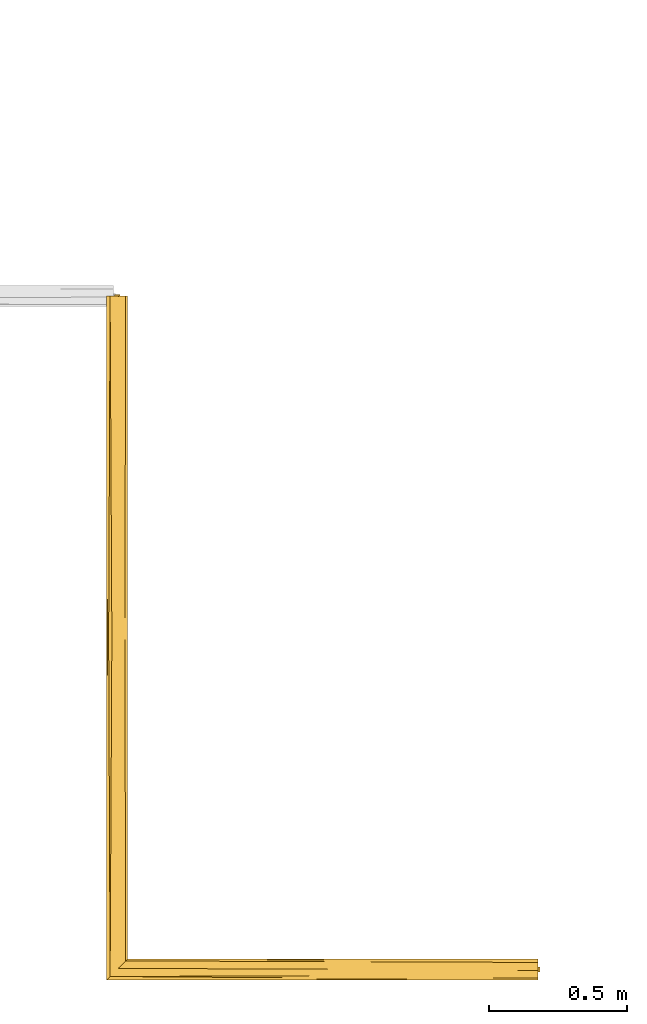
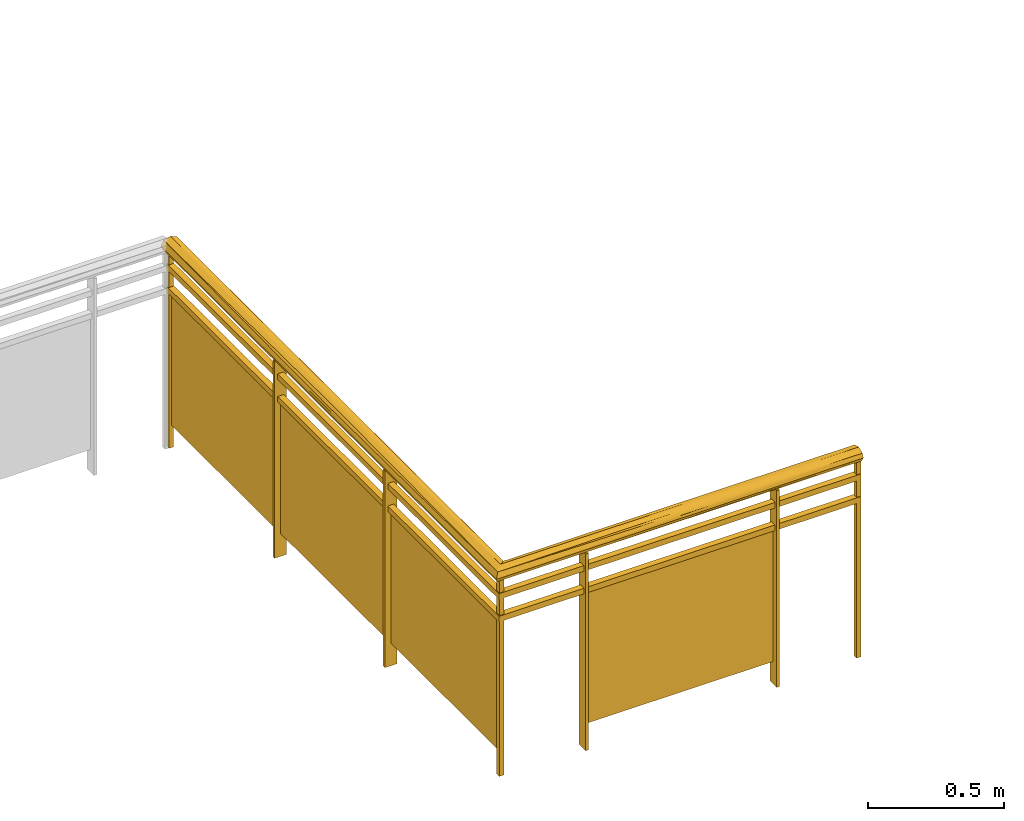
# One storey, part 2 of 3: 1 railing.
"""IFC2X3 building model written with IfcOpenShell, lengths in feet."""

from ifc_helpers import new_model, entity, si_unit, converted_unit, derived_unit, direction, frame, origin, place, context, subcontext, project, spatial, faceted_brep, material, material_list, element, save


model = new_model("IFC2X3")

# Units and contexts
model_context = context("Model", 3, precision=0.0001, world=origin(), true_north=direction((6.12303176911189e-17, 1.0)))
body_context = subcontext(model_context, "Body", "Model", "MODEL_VIEW")
ifc_project = project(units=[converted_unit("LENGTHUNIT", "FOOT", entity("IfcRatioMeasure", 0.3048), si_unit("LENGTHUNIT", "METRE"), dimensions=[1, 0, 0, 0, 0, 0, 0]), converted_unit("AREAUNIT", "SQUARE FOOT", entity("IfcRatioMeasure", 0.09290304), si_unit("AREAUNIT", "SQUARE_METRE"), dimensions=[2, 0, 0, 0, 0, 0, 0]), converted_unit("VOLUMEUNIT", "CUBIC FOOT", entity("IfcRatioMeasure", 0.028316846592), si_unit("VOLUMEUNIT", "CUBIC_METRE"), dimensions=[3, 0, 0, 0, 0, 0, 0]), converted_unit("PLANEANGLEUNIT", "DEGREE", entity("IfcRatioMeasure", 0.0174532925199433), si_unit("PLANEANGLEUNIT", "RADIAN"), dimensions=[0, 0, 0, 0, 0, 0, 0]), si_unit("MASSUNIT", "GRAM", prefix="KILO"), derived_unit("MASSDENSITYUNIT", [(si_unit("MASSUNIT", "GRAM", prefix="KILO"), 1), (si_unit("LENGTHUNIT", "METRE"), -3)]), si_unit("TIMEUNIT", "SECOND"), si_unit("FREQUENCYUNIT", "HERTZ"), si_unit("THERMODYNAMICTEMPERATUREUNIT", "DEGREE_CELSIUS"), derived_unit("THERMALTRANSMITTANCEUNIT", [(si_unit("MASSUNIT", "GRAM", prefix="KILO"), 1), (si_unit("THERMODYNAMICTEMPERATUREUNIT", "KELVIN"), -1), (si_unit("TIMEUNIT", "SECOND"), -3)]), derived_unit("VOLUMETRICFLOWRATEUNIT", [(si_unit("LENGTHUNIT", "METRE"), 3), (si_unit("TIMEUNIT", "SECOND"), -1)]), si_unit("ELECTRICCURRENTUNIT", "AMPERE"), si_unit("ELECTRICVOLTAGEUNIT", "VOLT"), si_unit("POWERUNIT", "WATT"), si_unit("FORCEUNIT", "NEWTON"), si_unit("ILLUMINANCEUNIT", "LUX"), si_unit("LUMINOUSFLUXUNIT", "LUMEN"), si_unit("LUMINOUSINTENSITYUNIT", "CANDELA"), derived_unit("USERDEFINED", [(si_unit("MASSUNIT", "GRAM", prefix="KILO"), -1), (si_unit("LENGTHUNIT", "METRE"), -2), (si_unit("TIMEUNIT", "SECOND"), 3), (si_unit("LUMINOUSFLUXUNIT", "LUMEN"), 1)]), derived_unit("LINEARVELOCITYUNIT", [(si_unit("LENGTHUNIT", "METRE"), 1), (si_unit("TIMEUNIT", "SECOND"), -1)]), si_unit("PRESSUREUNIT", "PASCAL"), derived_unit("USERDEFINED", [(si_unit("LENGTHUNIT", "METRE"), -2), (si_unit("MASSUNIT", "GRAM", prefix="KILO"), 1), (si_unit("TIMEUNIT", "SECOND"), -2)])], contexts=[model_context])

# Site, building, storey
site_placement = place(None, origin())
site = spatial("IfcSite", under=ifc_project, at=site_placement, Name="Default", CompositionType="ELEMENT")
building_placement = place(site_placement, origin())
building = spatial("IfcBuilding", under=site, at=building_placement, CompositionType="ELEMENT")
storey_placement = place(building_placement, frame((0.0, 0.0, 60.0)))
storey = spatial("IfcBuildingStorey", under=building, at=storey_placement, Name="L 11", CompositionType="ELEMENT", Elevation=60.0)

# Railing
ifc_material_1 = material(Name="Glass")
ifc_material_2 = material(Name="alum - color")
ifc_material_list = material_list([ifc_material_1, ifc_material_2])
railing_placement = place(storey_placement, frame((-51.4553966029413, -15.4672084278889, 0.0)))
element("IfcRailing", 1, at=railing_placement, inside=storey, material=ifc_material_list, Name="Railing:Glass Panel - Bottom Fill", ObjectType="Railing:Glass Panel - Bottom Fill", PredefinedType="NOTDEFINED", context=body_context, shape_type="Brep", body=[
    faceted_brep([(3.94273383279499, 0.0469004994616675, 2.90577041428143), (3.94273383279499, 0.213567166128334, 2.90577041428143), (3.94273383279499, 0.213567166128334, 0.0), (3.94273383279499, 0.0469004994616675, 0.0), (3.98440049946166, 0.0469004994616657, 2.90577041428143), (3.98440049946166, 0.0469004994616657, 0.0), (3.98440049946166, 0.213567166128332, 2.90577041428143), (3.98440049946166, 0.213567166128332, 0.0)], [[[0, 1, 2, 3]], [[4, 0, 3, 5]], [[6, 4, 5, 7]], [[1, 6, 7, 2]], [[1, 0, 4, 6]], [[3, 2, 7, 5]]]),
    faceted_brep([(1.29690049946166, 0.15167463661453, 0.333333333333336), (1.29690049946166, 0.15167463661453, 2.29166666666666), (3.96356716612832, 0.15167463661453, 2.29166666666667), (3.96356716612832, 0.15167463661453, 0.333333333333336), (1.29690049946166, 0.130841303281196, 0.333333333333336), (3.96356716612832, 0.130841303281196, 0.333333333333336), (3.96356716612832, 0.130841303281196, 2.29166666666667), (1.29690049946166, 0.130841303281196, 2.29166666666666)], [[[0, 1, 2, 3]], [[4, 5, 6, 7]], [[1, 0, 4, 7]], [[2, 1, 7, 6]], [[3, 2, 6, 5]], [[0, 3, 5, 4]]]),
    faceted_brep([(1.27606716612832, 0.0469004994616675, 2.90577041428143), (1.27606716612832, 0.213567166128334, 2.90577041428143), (1.27606716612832, 0.213567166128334, 0.0), (1.27606716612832, 0.0469004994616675, 0.0), (1.31773383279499, 0.0469004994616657, 2.90577041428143), (1.31773383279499, 0.0469004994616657, 0.0), (1.31773383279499, 0.213567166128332, 2.90577041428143), (1.31773383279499, 0.213567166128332, 0.0)], [[[0, 1, 2, 3]], [[4, 0, 3, 5]], [[6, 4, 5, 7]], [[1, 6, 7, 2]], [[1, 0, 4, 6]], [[3, 2, 7, 5]]]),
    faceted_brep([(0.15167463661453, 2.79690049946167, 0.333333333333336), (0.15167463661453, 2.79690049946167, 2.29166666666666), (0.15167463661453, 0.130233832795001, 2.29166666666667), (0.15167463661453, 0.130233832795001, 0.333333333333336), (0.130841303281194, 2.79690049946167, 0.333333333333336), (0.130841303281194, 0.130233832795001, 0.333333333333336), (0.130841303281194, 0.130233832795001, 2.29166666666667), (0.130841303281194, 2.79690049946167, 2.29166666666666)], [[[0, 1, 2, 3]], [[4, 5, 6, 7]], [[1, 0, 4, 7]], [[2, 1, 7, 6]], [[3, 2, 6, 5]], [[0, 3, 5, 4]]]),
    faceted_brep([(0.0469004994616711, 2.817733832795, 2.90577041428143), (0.213567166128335, 2.817733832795, 2.90577041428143), (0.213567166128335, 2.817733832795, 0.0), (0.0469004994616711, 2.817733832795, 0.0), (0.046900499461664, 2.77606716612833, 2.90577041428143), (0.046900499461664, 2.77606716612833, 0.0), (0.213567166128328, 2.77606716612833, 2.90577041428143), (0.213567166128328, 2.77606716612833, 0.0)], [[[0, 1, 2, 3]], [[4, 0, 3, 5]], [[6, 4, 5, 7]], [[1, 6, 7, 2]], [[1, 0, 4, 6]], [[3, 2, 7, 5]]]),
    faceted_brep([(0.15167463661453, 5.46356716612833, 0.333333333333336), (0.15167463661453, 5.46356716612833, 2.29166666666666), (0.15167463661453, 2.79690049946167, 2.29166666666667), (0.15167463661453, 2.79690049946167, 0.333333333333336), (0.130841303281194, 5.46356716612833, 0.333333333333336), (0.130841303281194, 2.79690049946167, 0.333333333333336), (0.130841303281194, 2.79690049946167, 2.29166666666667), (0.130841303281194, 5.46356716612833, 2.29166666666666)], [[[0, 1, 2, 3]], [[4, 5, 6, 7]], [[1, 0, 4, 7]], [[2, 1, 7, 6]], [[3, 2, 6, 5]], [[0, 3, 5, 4]]]),
    faceted_brep([(0.0469004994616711, 5.48440049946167, 2.90577041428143), (0.213567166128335, 5.48440049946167, 2.90577041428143), (0.213567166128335, 5.48440049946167, 0.0), (0.0469004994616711, 5.48440049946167, 0.0), (0.046900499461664, 5.442733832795, 2.90577041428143), (0.046900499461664, 5.442733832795, 0.0), (0.213567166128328, 5.442733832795, 2.90577041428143), (0.213567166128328, 5.442733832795, 0.0)], [[[0, 1, 2, 3]], [[4, 0, 3, 5]], [[6, 4, 5, 7]], [[1, 6, 7, 2]], [[1, 0, 4, 6]], [[3, 2, 7, 5]]]),
    faceted_brep([(0.15167463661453, 8.130233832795, 0.333333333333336), (0.15167463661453, 8.130233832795, 2.29166666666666), (0.15167463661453, 5.46356716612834, 2.29166666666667), (0.15167463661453, 5.46356716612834, 0.333333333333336), (0.130841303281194, 8.130233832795, 0.333333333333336), (0.130841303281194, 5.46356716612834, 0.333333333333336), (0.130841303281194, 5.46356716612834, 2.29166666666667), (0.130841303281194, 8.130233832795, 2.29166666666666)], [[[0, 1, 2, 3]], [[4, 5, 6, 7]], [[1, 0, 4, 7]], [[2, 1, 7, 6]], [[3, 2, 6, 5]], [[0, 3, 5, 4]]]),
    faceted_brep([(0.0989838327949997, 0.161483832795, 2.90577041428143), (0.161483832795, 0.161483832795, 2.90577041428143), (0.161483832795, 0.161483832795, 0.0), (0.0989838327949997, 0.161483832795, 0.0), (0.0989838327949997, 0.0989838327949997, 2.90577041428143), (0.0989838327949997, 0.0989838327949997, 0.0), (0.161483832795, 0.0989838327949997, 2.90577041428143), (0.161483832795, 0.0989838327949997, 0.0)], [[[0, 1, 2, 3]], [[4, 0, 3, 5]], [[6, 4, 5, 7]], [[1, 6, 7, 2]], [[1, 0, 4, 6]], [[3, 2, 7, 5]]]),
    faceted_brep([(5.08856716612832, 0.0989838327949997, 2.90577041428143), (5.08856716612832, 0.161483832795, 2.90577041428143), (5.08856716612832, 0.161483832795, 0.0), (5.08856716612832, 0.0989838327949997, 0.0), (5.15106716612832, 0.0989838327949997, 2.90577041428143), (5.15106716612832, 0.0989838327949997, 0.0), (5.15106716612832, 0.161483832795, 2.90577041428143), (5.15106716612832, 0.161483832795, 0.0)], [[[0, 1, 2, 3]], [[4, 0, 3, 5]], [[6, 4, 5, 7]], [[1, 6, 7, 2]], [[1, 0, 4, 6]], [[3, 2, 7, 5]]]),
    faceted_brep([(0.0989838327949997, 8.15106716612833, 2.90577041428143), (0.161483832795, 8.15106716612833, 2.90577041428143), (0.161483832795, 8.15106716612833, 0.0), (0.0989838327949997, 8.15106716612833, 0.0), (0.0989838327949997, 8.08856716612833, 2.90577041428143), (0.0989838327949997, 8.08856716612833, 0.0), (0.161483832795, 8.08856716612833, 2.90577041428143), (0.161483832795, 8.08856716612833, 0.0)], [[[0, 1, 2, 3]], [[4, 0, 3, 5]], [[6, 4, 5, 7]], [[1, 6, 7, 2]], [[1, 0, 4, 6]], [[3, 2, 7, 5]]]),
    faceted_brep([(0.0885671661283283, 8.130233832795, 2.70833333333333), (0.171900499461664, 8.130233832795, 2.70833333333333), (0.171900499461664, 8.130233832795, 2.625), (0.0885671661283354, 8.130233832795, 2.625), (0.0885671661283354, 0.0885671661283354, 2.70833333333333), (0.171900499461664, 0.171900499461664, 2.70833333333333), (0.171900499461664, 0.171900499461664, 2.625), (0.0885671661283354, 0.0885671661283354, 2.625), (5.13023383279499, 0.0885671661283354, 2.70833333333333), (5.13023383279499, 0.0885671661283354, 2.62499999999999), (5.13023383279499, 0.171900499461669, 2.625), (5.13023383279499, 0.171900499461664, 2.70833333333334)], [[[0, 1, 2, 3]], [[1, 0, 4, 5]], [[2, 1, 5, 6]], [[3, 2, 6, 7]], [[0, 3, 7, 4]], [[8, 9, 10, 11]], [[5, 4, 8, 11]], [[6, 5, 11, 10]], [[7, 6, 10, 9]], [[4, 7, 9, 8]]]),
    faceted_brep([(0.0885671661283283, 8.130233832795, 2.375), (0.171900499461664, 8.130233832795, 2.375), (0.171900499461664, 8.130233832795, 2.29166666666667), (0.0885671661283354, 8.130233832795, 2.29166666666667), (0.0885671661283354, 0.0885671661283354, 2.375), (0.171900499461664, 0.171900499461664, 2.375), (0.171900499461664, 0.171900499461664, 2.29166666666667), (0.0885671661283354, 0.0885671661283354, 2.29166666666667), (5.13023383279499, 0.0885671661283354, 2.375), (5.13023383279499, 0.0885671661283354, 2.29166666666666), (5.13023383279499, 0.171900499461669, 2.29166666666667), (5.13023383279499, 0.171900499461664, 2.37500000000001)], [[[0, 1, 2, 3]], [[1, 0, 4, 5]], [[2, 1, 5, 6]], [[3, 2, 6, 7]], [[0, 3, 7, 4]], [[8, 9, 10, 11]], [[5, 4, 8, 11]], [[6, 5, 11, 10]], [[7, 6, 10, 9]], [[4, 7, 9, 8]]]),
    faceted_brep([(0.117167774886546, 8.130233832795, 2.90676357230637), (0.0731372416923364, 8.130233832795, 2.92582935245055), (0.0291067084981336, 8.130233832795, 2.94489513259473), (0.0171702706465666, 8.130233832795, 2.97244756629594), (0.00523383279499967, 8.130233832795, 3.0), (0.0259131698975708, 8.130233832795, 3.03483491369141), (0.0465925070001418, 8.130233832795, 3.06966982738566), (0.094946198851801, 8.130233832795, 3.08145312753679), (0.143299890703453, 8.130233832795, 3.09323642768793), (0.187330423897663, 8.130233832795, 3.07417064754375), (0.231360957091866, 8.130233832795, 3.05510486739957), (0.243297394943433, 8.130233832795, 3.02755243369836), (0.255233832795, 8.130233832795, 3.0), (0.234554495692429, 8.130233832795, 2.9651650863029), (0.213875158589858, 8.130233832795, 2.93033017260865), (0.165521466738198, 8.130233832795, 2.91854687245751), (0.165521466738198, 0.165521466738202, 2.91854687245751), (0.117167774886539, 0.117167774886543, 2.90676357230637), (0.143299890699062, 4.14787766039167, 2.90676357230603), (0.0188580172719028, 4.07967027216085, 2.95743839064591), (0.0291067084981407, 0.0291067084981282, 2.94489513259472), (0.0171702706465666, 0.0171702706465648, 2.97244756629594), (0.0137391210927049, 0.0137391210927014, 2.98036756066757), (0.234554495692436, 0.234554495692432, 2.9651650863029), (0.213875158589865, 0.213875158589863, 2.93033017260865), (0.23130291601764, 4.17205446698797, 2.94483526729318), (0.00523383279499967, 0.00523383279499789, 3.0), (0.00523383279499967, 3.52237348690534, 3.0), (0.192733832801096, 4.17205450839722, 2.918810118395), (0.0085814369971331, 4.56614973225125, 2.97844882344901), (0.00523383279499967, 3.57772891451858, 3.0), (0.0731372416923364, 0.0731372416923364, 2.92582935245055), (0.0914039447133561, 4.10168553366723, 2.91088800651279), (0.246600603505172, 4.18239410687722, 2.96576371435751), (0.039745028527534, 4.0796702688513, 2.93532244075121), (0.255233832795, 4.61312962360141, 3.0), (0.255233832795, 4.55774796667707, 3.0), (0.255233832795, 0.255233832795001, 3.0), (0.0635502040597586, 4.29614994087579, 2.92070441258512), (0.241449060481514, 0.241449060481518, 2.97677917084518), (0.117167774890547, 4.13676685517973, 3.09323642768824), (0.243297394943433, 0.243297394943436, 3.02755243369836), (0.241575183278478, 4.18079739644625, 3.04261230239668), (0.231360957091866, 0.231360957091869, 3.05510486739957), (0.0259131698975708, 0.025913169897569, 3.0348349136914), (0.0291067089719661, 4.08841313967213, 3.0551048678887), (0.0134595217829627, 4.07807343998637, 3.03344663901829), (0.0465925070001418, 0.0465925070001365, 3.06966982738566), (0.0675305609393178, 4.08841318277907, 3.08110167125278), (0.168659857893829, 4.13676686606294, 3.08921041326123), (0.221524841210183, 4.18079739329, 3.06404030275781), (0.251826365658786, 3.78364768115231, 3.02174037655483), (0.0707693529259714, 0.0707693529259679, 3.07556147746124), (0.094946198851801, 0.0949461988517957, 3.08145312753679), (0.187330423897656, 0.187330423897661, 3.07417064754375), (0.197226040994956, 4.20738820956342, 3.07914914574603), (0.244356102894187, 0.244356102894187, 3.02510865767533), (0.143299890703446, 0.143299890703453, 3.09323642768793), (0.119123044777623, 0.119123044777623, 3.08734477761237), (5.13023383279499, 0.0259131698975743, 2.9651650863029), (5.13023383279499, 0.0465925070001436, 2.93033017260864), (5.13023383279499, 0.0949461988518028, 2.91854687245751), (5.13023383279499, 0.143299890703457, 2.90676357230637), (5.13023383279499, 0.187330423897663, 2.92582935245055), (5.13023383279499, 0.231360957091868, 2.94489513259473), (5.13023383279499, 0.243297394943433, 2.97244756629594), (5.13023383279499, 0.255233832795, 3.0), (5.13023383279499, 0.234554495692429, 3.03483491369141), (5.13023383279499, 0.213875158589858, 3.06966982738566), (5.13023383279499, 0.165521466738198, 3.0814531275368), (5.13023383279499, 0.117167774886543, 3.09323642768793), (5.13023383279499, 0.0731372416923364, 3.07417064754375), (5.13023383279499, 0.0291067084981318, 3.05510486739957), (5.13023383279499, 0.0171702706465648, 3.02755243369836), (5.13023383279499, 0.00523383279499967, 3.0), (2.90239529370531, 0.241609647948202, 2.95743839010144), (2.70037614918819, 0.222558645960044, 2.93679885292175), (2.90645167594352, 0.251872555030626, 2.97840545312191), (2.36299101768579, 0.255233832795, 3.0), (3.09254439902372, 0.255233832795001, 3.0), (2.34978165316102, 0.195707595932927, 2.92013930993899), (2.77247653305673, 0.00523383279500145, 3.0), (2.39034776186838, 0.0180983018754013, 2.95857566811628), (2.60535897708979, 0.130792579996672, 2.90625093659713), (2.9250958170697, 0.16433925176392, 2.90980701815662), (2.34287893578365, 0.0959444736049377, 2.90984625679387), (2.56660659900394, 0.0376121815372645, 2.93704363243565), (2.88561839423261, 0.0639929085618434, 2.92049596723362), (2.29292314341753, 0.00523383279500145, 3.0), (2.60050159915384, 0.0564588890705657, 3.07568038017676), (2.25480502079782, 0.0307681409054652, 3.05678038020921), (2.9081122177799, 0.197520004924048, 3.0790087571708), (2.71495766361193, 0.22380430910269, 3.06216213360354), (2.62419605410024, 0.0145921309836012, 3.03559140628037), (2.71450553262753, 0.132589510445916, 3.0937333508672), (2.82485670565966, 0.0979297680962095, 3.09056524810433), (2.40596040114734, 0.242343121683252, 3.04146426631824), (2.30840830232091, 0.165863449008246, 3.08986092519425)], [[[0, 1, 2, 3, 4, 5, 6, 7, 8, 9, 10, 11, 12, 13, 14, 15]], [[16, 17, 18]], [[19, 20, 21, 22]], [[23, 24, 25]], [[22, 26, 27]], [[25, 14, 13]], [[15, 14, 28]], [[24, 16, 28]], [[29, 27, 30, 4]], [[29, 3, 19]], [[31, 32, 17]], [[0, 32, 1]], [[3, 2, 19]], [[25, 13, 33]], [[15, 18, 0]], [[2, 34, 19]], [[1, 34, 2]], [[29, 19, 22]], [[33, 12, 35, 36, 37]], [[20, 19, 34]], [[34, 31, 20]], [[38, 32, 31]], [[3, 29, 4]], [[27, 29, 22]], [[18, 15, 28]], [[24, 28, 25]], [[32, 0, 18]], [[16, 18, 28]], [[25, 33, 23]], [[14, 25, 28]], [[13, 12, 33]], [[18, 17, 32]], [[1, 32, 38]], [[33, 37, 39, 23]], [[38, 34, 1]], [[34, 38, 31]], [[40, 8, 7]], [[41, 42, 43]], [[44, 45, 46]], [[10, 42, 11]], [[46, 5, 4]], [[47, 48, 45]], [[40, 49, 8]], [[43, 42, 50]], [[41, 51, 42]], [[48, 47, 52, 53]], [[54, 55, 49]], [[10, 50, 42]], [[51, 41, 56, 37]], [[55, 9, 49]], [[48, 40, 7]], [[57, 54, 49]], [[51, 12, 11]], [[45, 6, 5]], [[43, 50, 54]], [[50, 10, 9]], [[51, 37, 36, 35, 12]], [[42, 51, 11]], [[57, 49, 40]], [[8, 49, 9]], [[6, 45, 48]], [[47, 45, 44]], [[45, 5, 46]], [[46, 4, 30, 27, 26]], [[6, 48, 7]], [[40, 53, 58, 57]], [[53, 40, 48]], [[55, 50, 9]], [[50, 55, 54]], [[44, 46, 26]], [[59, 60, 61, 62, 63, 64, 65, 66, 67, 68, 69, 70, 71, 72, 73, 74]], [[65, 64, 75]], [[76, 24, 23]], [[23, 77, 75]], [[76, 23, 75]], [[77, 78, 79, 66]], [[39, 37, 78]], [[63, 80, 76]], [[80, 16, 24]], [[81, 82, 59]], [[62, 83, 84]], [[83, 61, 85]], [[86, 60, 59]], [[24, 76, 80]], [[61, 83, 62]], [[76, 75, 64]], [[77, 23, 39]], [[76, 64, 63]], [[80, 63, 84]], [[16, 80, 84]], [[65, 75, 77]], [[65, 77, 66]], [[78, 77, 39]], [[85, 61, 87]], [[62, 84, 63]], [[17, 16, 83]], [[84, 83, 16]], [[60, 86, 87]], [[85, 17, 83]], [[85, 31, 17]], [[31, 85, 87]], [[20, 82, 21]], [[60, 87, 61]], [[20, 31, 86]], [[87, 86, 31]], [[59, 74, 81]], [[59, 82, 86]], [[21, 81, 88, 26, 22]], [[86, 82, 20]], [[21, 82, 81]], [[89, 90, 72]], [[91, 68, 92]], [[93, 73, 72]], [[70, 94, 95]], [[96, 56, 41, 43]], [[94, 97, 57]], [[94, 58, 95]], [[91, 69, 68]], [[97, 91, 54]], [[54, 91, 92]], [[56, 79, 78, 37]], [[43, 92, 96]], [[68, 67, 92]], [[96, 67, 79]], [[54, 92, 43]], [[66, 79, 67]], [[96, 92, 67]], [[56, 96, 79]], [[69, 91, 97]], [[70, 69, 94]], [[57, 97, 54]], [[97, 94, 69]], [[52, 47, 89]], [[52, 89, 95]], [[71, 95, 89]], [[95, 71, 70]], [[53, 52, 95, 58]], [[94, 57, 58]], [[89, 72, 71]], [[93, 44, 26]], [[88, 93, 26]], [[90, 89, 47]], [[90, 47, 44]], [[90, 93, 72]], [[90, 44, 93]], [[73, 88, 81, 74]], [[73, 93, 88]]]),
])

save(model, "model.ifc")
